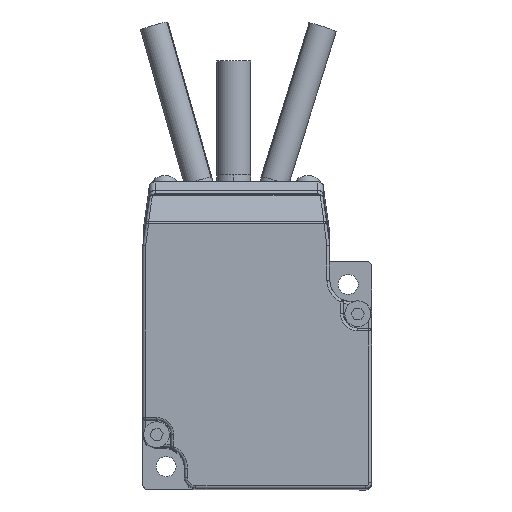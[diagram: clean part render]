
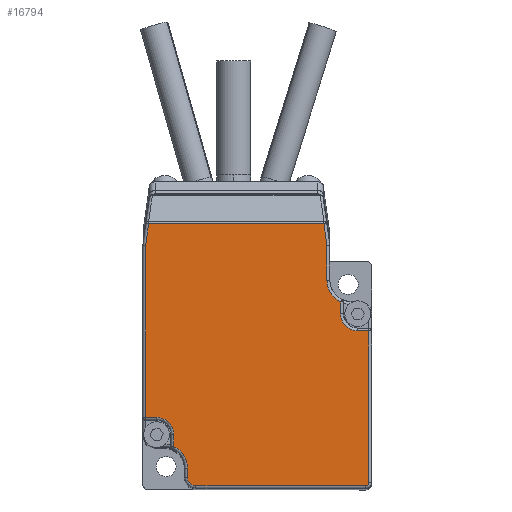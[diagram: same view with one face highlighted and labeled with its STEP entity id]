
A CAD part, top view. The second image highlights one B-rep face of the part: STEP entity #16794.
In plain terms, the highlighted planar face has unit normal (0, 0, 1).
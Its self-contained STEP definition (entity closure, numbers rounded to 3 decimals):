
#110 = CARTESIAN_POINT ( 'NONE',  ( 16.4, 16.4, 122.9 ) ) ;
#112 = CARTESIAN_POINT ( 'NONE',  ( 14.572, -19., 122.9 ) ) ;
#342 = CARTESIAN_POINT ( 'NONE',  ( 11.662, 26.293, 122.9 ) ) ;
#431 = CARTESIAN_POINT ( 'NONE',  ( -14.572, -12.619, 122.9 ) ) ;
#463 = VERTEX_POINT ( 'NONE', #11668 ) ;
#638 = CARTESIAN_POINT ( 'NONE',  ( 12.2, 22.465, 122.9 ) ) ;
#682 = DIRECTION ( 'NONE',  ( 0., 0., -1. ) ) ;
#812 = CARTESIAN_POINT ( 'NONE',  ( -12.2, -16.4, 122.9 ) ) ;
#893 = DIRECTION ( 'NONE',  ( 1., 0., 0. ) ) ;
#1389 = CARTESIAN_POINT ( 'NONE',  ( -19.438, 26.293, 122.9 ) ) ;
#1568 = VECTOR ( 'NONE', #27901, 1000. ) ;
#1707 = DIRECTION ( 'NONE',  ( 1., 0., 0. ) ) ;
#1901 = DIRECTION ( 'NONE',  ( 0., 0., -1. ) ) ;
#1922 = VERTEX_POINT ( 'NONE', #14921 ) ;
#1934 = CIRCLE ( 'NONE', #2757, 4.2 ) ;
#2108 = CARTESIAN_POINT ( 'NONE',  ( -10.7, -19.5, 122.9 ) ) ;
#2355 = CARTESIAN_POINT ( 'NONE',  ( -14.572, -19., 122.9 ) ) ;
#2423 = CARTESIAN_POINT ( 'NONE',  ( -18.962, 26.293, 122.9 ) ) ;
#2512 = CARTESIAN_POINT ( 'NONE',  ( 19.5, 8.058, 122.9 ) ) ;
#2757 = AXIS2_PLACEMENT_3D ( 'NONE', #110, #9520, #25377 ) ;
#2934 = LINE ( 'NONE', #20503, #22063 ) ;
#3052 = CIRCLE ( 'NONE', #6061, 3. ) ;
#3093 = VECTOR ( 'NONE', #24666, 1000. ) ;
#3749 = CARTESIAN_POINT ( 'NONE',  ( -17.572, -7.558, 122.9 ) ) ;
#3894 = ORIENTED_EDGE ( 'NONE', *, *, #28843, .T. ) ;
#4030 = ORIENTED_EDGE ( 'NONE', *, *, #27962, .T. ) ;
#4106 = CARTESIAN_POINT ( 'NONE',  ( 19., -19., 122.9 ) ) ;
#4659 = EDGE_CURVE ( 'NONE', #22602, #19140, #22727, .T. ) ;
#4688 = EDGE_CURVE ( 'NONE', #14155, #6603, #12439, .T. ) ;
#4925 = PLANE ( 'NONE',  #26759 ) ;
#5014 = VERTEX_POINT ( 'NONE', #21353 ) ;
#5031 = ORIENTED_EDGE ( 'NONE', *, *, #16153, .T. ) ;
#5141 = CIRCLE ( 'NONE', #11618, 4.2 ) ;
#5365 = VERTEX_POINT ( 'NONE', #24981 ) ;
#5976 = LINE ( 'NONE', #24498, #10244 ) ;
#6061 = AXIS2_PLACEMENT_3D ( 'NONE', #28004, #682, #893 ) ;
#6514 = VERTEX_POINT ( 'NONE', #15661 ) ;
#6558 = EDGE_CURVE ( 'NONE', #14009, #5014, #20395, .T. ) ;
#6603 = VERTEX_POINT ( 'NONE', #2423 ) ;
#6777 = CARTESIAN_POINT ( 'NONE',  ( -10.7, -18., 122.9 ) ) ;
#6969 = DIRECTION ( 'NONE',  ( 0., -1., 0. ) ) ;
#7063 = DIRECTION ( 'NONE',  ( 0., 0., 1. ) ) ;
#7172 = LINE ( 'NONE', #7492, #1568 ) ;
#7328 = ORIENTED_EDGE ( 'NONE', *, *, #7628, .T. ) ;
#7492 = CARTESIAN_POINT ( 'NONE',  ( -19.505, 22.43, 122.9 ) ) ;
#7499 = CARTESIAN_POINT ( 'NONE',  ( -17.572, -7.558, 122.9 ) ) ;
#7628 = EDGE_CURVE ( 'NONE', #5365, #17009, #1934, .T. ) ;
#7693 = LINE ( 'NONE', #22503, #3093 ) ;
#8183 = ORIENTED_EDGE ( 'NONE', *, *, #22316, .T. ) ;
#8263 = ORIENTED_EDGE ( 'NONE', *, *, #11162, .T. ) ;
#8342 = ORIENTED_EDGE ( 'NONE', *, *, #18093, .T. ) ;
#8651 = ORIENTED_EDGE ( 'NONE', *, *, #28993, .T. ) ;
#9489 = CARTESIAN_POINT ( 'NONE',  ( -19., -19., 122.9 ) ) ;
#9490 = CARTESIAN_POINT ( 'NONE',  ( 19., -19.5, 122.9 ) ) ;
#9499 = VERTEX_POINT ( 'NONE', #18265 ) ;
#9520 = DIRECTION ( 'NONE',  ( 0., 0., -1. ) ) ;
#10244 = VECTOR ( 'NONE', #22433, 1000. ) ;
#10774 = DIRECTION ( 'NONE',  ( 1., 0., 0. ) ) ;
#11133 = CIRCLE ( 'NONE', #18906, 1.5 ) ;
#11162 = EDGE_CURVE ( 'NONE', #23726, #1922, #19104, .T. ) ;
#11490 = ORIENTED_EDGE ( 'NONE', *, *, #15331, .T. ) ;
#11541 = CARTESIAN_POINT ( 'NONE',  ( 17.572, 7.558, 122.9 ) ) ;
#11618 = AXIS2_PLACEMENT_3D ( 'NONE', #19993, #1901, #1707 ) ;
#11668 = CARTESIAN_POINT ( 'NONE',  ( -14.572, -10.558, 122.9 ) ) ;
#11741 = LINE ( 'NONE', #14972, #12460 ) ;
#12439 = LINE ( 'NONE', #1389, #25197 ) ;
#12460 = VECTOR ( 'NONE', #28827, 1000. ) ;
#12568 = VERTEX_POINT ( 'NONE', #431 ) ;
#12771 = VECTOR ( 'NONE', #20867, 1000. ) ;
#13224 = VECTOR ( 'NONE', #18421, 1000. ) ;
#13587 = LINE ( 'NONE', #2512, #13224 ) ;
#13822 = LINE ( 'NONE', #112, #12771 ) ;
#14009 = VERTEX_POINT ( 'NONE', #11541 ) ;
#14155 = VERTEX_POINT ( 'NONE', #342 ) ;
#14872 = ORIENTED_EDGE ( 'NONE', *, *, #15411, .T. ) ;
#14921 = CARTESIAN_POINT ( 'NONE',  ( 19.5, -19., 122.9 ) ) ;
#14972 = CARTESIAN_POINT ( 'NONE',  ( 11.643, 26.43, 122.9 ) ) ;
#15101 = VERTEX_POINT ( 'NONE', #2108 ) ;
#15331 = EDGE_CURVE ( 'NONE', #19140, #463, #3052, .T. ) ;
#15411 = EDGE_CURVE ( 'NONE', #9499, #22602, #24975, .T. ) ;
#15661 = CARTESIAN_POINT ( 'NONE',  ( -12.2, -18., 122.9 ) ) ;
#15904 = ORIENTED_EDGE ( 'NONE', *, *, #20522, .T. ) ;
#15961 = AXIS2_PLACEMENT_3D ( 'NONE', #25173, #27246, #27335 ) ;
#15967 = ORIENTED_EDGE ( 'NONE', *, *, #4659, .T. ) ;
#16004 = CARTESIAN_POINT ( 'NONE',  ( 19.5, 7.558, 122.9 ) ) ;
#16153 = EDGE_CURVE ( 'NONE', #1922, #16843, #13587, .T. ) ;
#16293 = VERTEX_POINT ( 'NONE', #812 ) ;
#16465 = ORIENTED_EDGE ( 'NONE', *, *, #6558, .T. ) ;
#16473 = VECTOR ( 'NONE', #23372, 1000. ) ;
#16794 = ADVANCED_FACE ( 'NONE', ( #18143 ), #4925, .T. ) ;
#16843 = VERTEX_POINT ( 'NONE', #16004 ) ;
#16930 = CARTESIAN_POINT ( 'NONE',  ( -19.5, -8.058, 122.9 ) ) ;
#17009 = VERTEX_POINT ( 'NONE', #17700 ) ;
#17080 = ORIENTED_EDGE ( 'NONE', *, *, #26750, .T. ) ;
#17700 = CARTESIAN_POINT ( 'NONE',  ( 12.2, 16.4, 122.9 ) ) ;
#17759 = DIRECTION ( 'NONE',  ( 0., 0., 1. ) ) ;
#17940 = CARTESIAN_POINT ( 'NONE',  ( 12.2, 22.5, 122.9 ) ) ;
#18093 = EDGE_CURVE ( 'NONE', #29076, #14155, #11741, .T. ) ;
#18143 = FACE_OUTER_BOUND ( 'NONE', #20696, .T. ) ;
#18154 = LINE ( 'NONE', #2355, #24557 ) ;
#18265 = CARTESIAN_POINT ( 'NONE',  ( -19.5, 22.465, 122.9 ) ) ;
#18387 = DIRECTION ( 'NONE',  ( 1., 0., 0. ) ) ;
#18421 = DIRECTION ( 'NONE',  ( 0., 1., 0. ) ) ;
#18589 = EDGE_CURVE ( 'NONE', #5014, #5365, #13822, .T. ) ;
#18610 = DIRECTION ( 'NONE',  ( 0., 1., 0. ) ) ;
#18906 = AXIS2_PLACEMENT_3D ( 'NONE', #6777, #7063, #24914 ) ;
#19104 = CIRCLE ( 'NONE', #28086, 0.5 ) ;
#19140 = VERTEX_POINT ( 'NONE', #7499 ) ;
#19175 = VECTOR ( 'NONE', #10774, 1000. ) ;
#19652 = ORIENTED_EDGE ( 'NONE', *, *, #28657, .T. ) ;
#19670 = ORIENTED_EDGE ( 'NONE', *, *, #4688, .T. ) ;
#19768 = DIRECTION ( 'NONE',  ( -1., 0., 0. ) ) ;
#19882 = EDGE_CURVE ( 'NONE', #15101, #23726, #5976, .T. ) ;
#19993 = CARTESIAN_POINT ( 'NONE',  ( -16.4, -16.4, 122.9 ) ) ;
#20006 = VECTOR ( 'NONE', #18610, 1000. ) ;
#20395 = CIRCLE ( 'NONE', #15961, 3. ) ;
#20503 = CARTESIAN_POINT ( 'NONE',  ( -12.2, -18., 122.9 ) ) ;
#20522 = EDGE_CURVE ( 'NONE', #16843, #14009, #7693, .T. ) ;
#20696 = EDGE_LOOP ( 'NONE', ( #16465, #22130, #7328, #4030, #8342, #19670, #19652, #14872, #15967, #11490, #8651, #17080, #3894, #8183, #25578, #8263, #5031, #15904 ) ) ;
#20867 = DIRECTION ( 'NONE',  ( 0., 1., 0. ) ) ;
#21353 = CARTESIAN_POINT ( 'NONE',  ( 14.572, 10.558, 122.9 ) ) ;
#22063 = VECTOR ( 'NONE', #29337, 1000. ) ;
#22130 = ORIENTED_EDGE ( 'NONE', *, *, #18589, .T. ) ;
#22227 = DIRECTION ( 'NONE',  ( 1., 0., 0. ) ) ;
#22316 = EDGE_CURVE ( 'NONE', #6514, #15101, #11133, .T. ) ;
#22433 = DIRECTION ( 'NONE',  ( 1., 0., 0. ) ) ;
#22503 = CARTESIAN_POINT ( 'NONE',  ( 17.572, 7.558, 122.9 ) ) ;
#22602 = VERTEX_POINT ( 'NONE', #26379 ) ;
#22727 = LINE ( 'NONE', #3749, #19175 ) ;
#23372 = DIRECTION ( 'NONE',  ( 0., -1., 0. ) ) ;
#23726 = VERTEX_POINT ( 'NONE', #9490 ) ;
#24498 = CARTESIAN_POINT ( 'NONE',  ( 19., -19.5, 122.9 ) ) ;
#24557 = VECTOR ( 'NONE', #6969, 1000. ) ;
#24617 = LINE ( 'NONE', #17940, #20006 ) ;
#24666 = DIRECTION ( 'NONE',  ( -1., 0., 0. ) ) ;
#24914 = DIRECTION ( 'NONE',  ( 1., 0., 0. ) ) ;
#24975 = LINE ( 'NONE', #16930, #16473 ) ;
#24981 = CARTESIAN_POINT ( 'NONE',  ( 14.572, 12.619, 122.9 ) ) ;
#25173 = CARTESIAN_POINT ( 'NONE',  ( 17.572, 10.558, 122.9 ) ) ;
#25197 = VECTOR ( 'NONE', #19768, 1000. ) ;
#25231 = DIRECTION ( 'NONE',  ( 0., 0., 1. ) ) ;
#25377 = DIRECTION ( 'NONE',  ( 1., 0., 0. ) ) ;
#25578 = ORIENTED_EDGE ( 'NONE', *, *, #19882, .T. ) ;
#26379 = CARTESIAN_POINT ( 'NONE',  ( -19.5, -7.558, 122.9 ) ) ;
#26750 = EDGE_CURVE ( 'NONE', #12568, #16293, #5141, .T. ) ;
#26759 = AXIS2_PLACEMENT_3D ( 'NONE', #9489, #25231, #18387 ) ;
#27246 = DIRECTION ( 'NONE',  ( 0., 0., -1. ) ) ;
#27335 = DIRECTION ( 'NONE',  ( 1., 0., 0. ) ) ;
#27901 = DIRECTION ( 'NONE',  ( -0.139, -0.99, 0. ) ) ;
#27962 = EDGE_CURVE ( 'NONE', #17009, #29076, #24617, .T. ) ;
#28004 = CARTESIAN_POINT ( 'NONE',  ( -17.572, -10.558, 122.9 ) ) ;
#28086 = AXIS2_PLACEMENT_3D ( 'NONE', #4106, #17759, #22227 ) ;
#28657 = EDGE_CURVE ( 'NONE', #6603, #9499, #7172, .T. ) ;
#28827 = DIRECTION ( 'NONE',  ( -0.139, 0.99, 0. ) ) ;
#28843 = EDGE_CURVE ( 'NONE', #16293, #6514, #2934, .T. ) ;
#28993 = EDGE_CURVE ( 'NONE', #463, #12568, #18154, .T. ) ;
#29076 = VERTEX_POINT ( 'NONE', #638 ) ;
#29337 = DIRECTION ( 'NONE',  ( 0., -1., 0. ) ) ;
